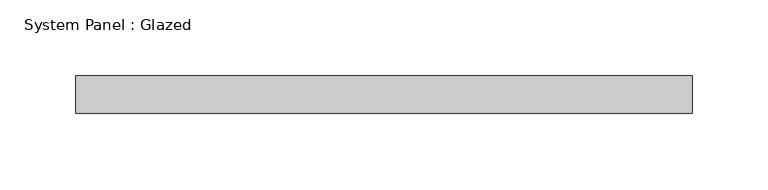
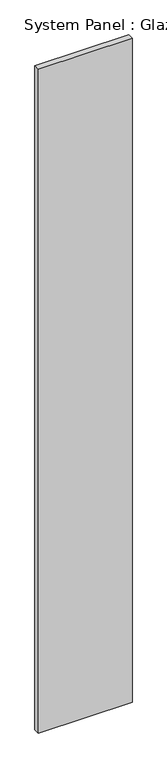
"""IFC4 building model written with IfcOpenShell, lengths in millimetres: plate geometry, System Panel : Glazed."""

from ifc_helpers import new_model, si_unit, origin, origin_with_axes, place, context, project, spatial, polyline, outline, extrude, source, transform, mapped, element, save


def system_panel_glazed_f5855ad7(model_context):
    return source(origin(), model_context, "Body", "SweptSolid", [
        extrude(outline(polyline([(203.7584914, -49.5), (-203.7584914, -49.5), (-203.7584914, -24.5), (203.7584914, -24.5), (203.7584914, -49.5)])), origin_with_axes(), (0.0, 0.0, 1.0), 3048.0),
    ])


if __name__ == "__main__":
    model = new_model("IFC4")
    model_context = context("Model", 3, world=origin())
    ifc_project = project(units=[si_unit("LENGTHUNIT", "METRE", prefix="MILLI")], contexts=[model_context])
    site = spatial("IfcSite", under=ifc_project)
    building = spatial("IfcBuilding", under=site)
    placement = place(None, origin())
    system_panel_glazed_shape = system_panel_glazed_f5855ad7(model_context)
    element("IfcPlate", 1, ObjectType="System Panel : Glazed", at=placement, inside=building, context=model_context, shape_type="MappedRepresentation", body=[
        mapped(system_panel_glazed_shape, transform((0.0, 0.0, 0.0), x_axis=(1.0, 0.0, 0.0), y_axis=(0.0, 1.0, 0.0), z_axis=(0.0, 0.0, 1.0))),
    ])
    save(model, "model.ifc")
